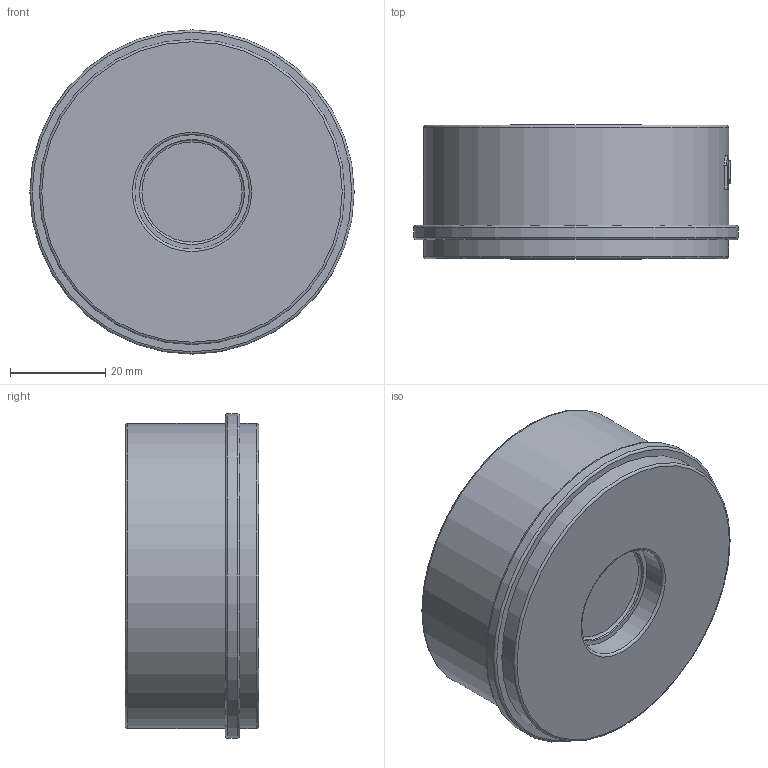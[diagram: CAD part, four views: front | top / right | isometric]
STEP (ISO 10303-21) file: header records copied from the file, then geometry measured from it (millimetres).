
FILE_DESCRIPTION(('STEP AP242'), '1');
FILE_NAME('VCS3232-Fb Êëàïàí îáðàòíûé ïðóæèííûé DN.ru Äó25 Ðó40', '', ('UNSPECIFIED'), ('UNSPECIFIED'), 'C3D Converter', 'C3D Toolkit', '');
FILE_SCHEMA(('AP242_MANAGED_MODEL_BASED_3D_ENGINEERING_MIM_LF { 1 0 10303 442 1 1 4 }'));
Length unit declared in the file: millimetre
Products named in the file (1): VCS3232-Fb
Bounding box: 68 x 28 x 68 mm (x, y, z)
Volume: 34615.6 mm3; surface area: 23541.8 mm2
Topology: 1 solids, 1 shells, 137 faces, 365 edges, 246 vertices
Faces by surface type: plane 53, extrusion 40, cylinder 29, torus 10, bspline 3, cone 2
Full cylindrical faces by diameter (mm): 6.5 x2, 10.5 x2, 22 x1, 24 x1, 32 x1, 33 x1, 44 x1, 58 x1, 64 x2, 68 x1
Entity records: 11264 total; most frequent: CARTESIAN_POINT 7994, ORIENTED_EDGE 674, DIRECTION 549, EDGE_CURVE 337, VERTEX_POINT 246, AXIS2_PLACEMENT_3D 201, EDGE_LOOP 189, FACE_BOUND 169
